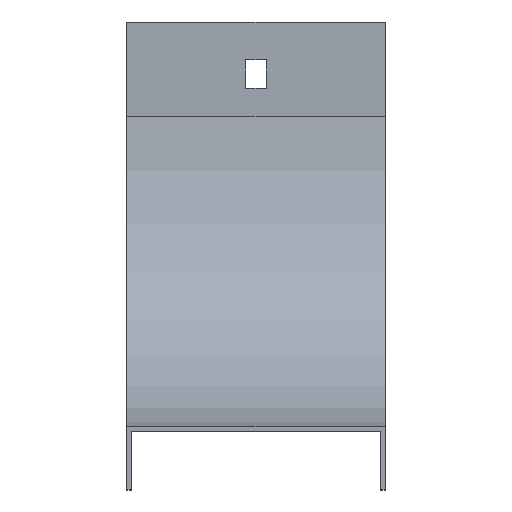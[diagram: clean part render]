
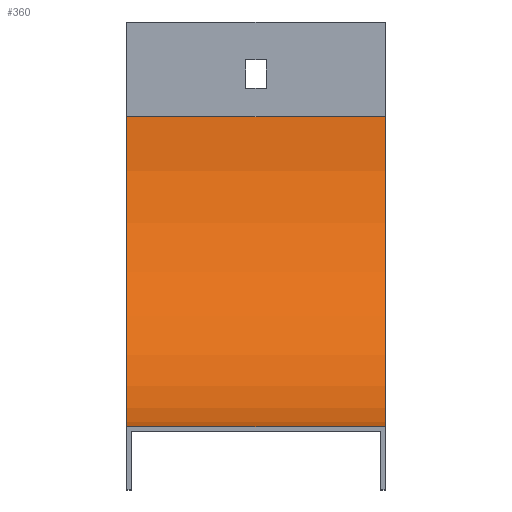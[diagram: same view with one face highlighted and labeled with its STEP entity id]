
A CAD part, top view. The second image highlights one B-rep face of the part: STEP entity #360.
In plain terms, the highlighted cylindrical face has radius 98.5 mm (diameter 197 mm), a partial arc.
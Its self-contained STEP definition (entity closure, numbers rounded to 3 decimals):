
#9 = CARTESIAN_POINT ( 'NONE',  ( -41., 98.5, -30. ) ) ;
#47 = EDGE_CURVE ( 'NONE', #192, #613, #340, .T. ) ;
#59 = CARTESIAN_POINT ( 'NONE',  ( -41., 0., -30. ) ) ;
#109 = CIRCLE ( 'NONE', #515, 98.5 ) ;
#130 = LINE ( 'NONE', #199, #452 ) ;
#138 = DIRECTION ( 'NONE',  ( -1., 0., 0. ) ) ;
#171 = CARTESIAN_POINT ( 'NONE',  ( 41., 98.5, -30. ) ) ;
#192 = VERTEX_POINT ( 'NONE', #531 ) ;
#199 = CARTESIAN_POINT ( 'NONE',  ( 41., 98.5, -128.5 ) ) ;
#234 = EDGE_CURVE ( 'NONE', #414, #192, #130, .T. ) ;
#285 = DIRECTION ( 'NONE',  ( 0., 0., 1. ) ) ;
#290 = FACE_OUTER_BOUND ( 'NONE', #606, .T. ) ;
#314 = ORIENTED_EDGE ( 'NONE', *, *, #789, .F. ) ;
#340 = CIRCLE ( 'NONE', #567, 98.5 ) ;
#347 = CARTESIAN_POINT ( 'NONE',  ( 41., 98.5, -30. ) ) ;
#360 = ADVANCED_FACE ( 'NONE', ( #290 ), #814, .F. ) ;
#363 = CARTESIAN_POINT ( 'NONE',  ( 41., 0., -30. ) ) ;
#413 = DIRECTION ( 'NONE',  ( -1., 0., 0. ) ) ;
#414 = VERTEX_POINT ( 'NONE', #637 ) ;
#431 = LINE ( 'NONE', #363, #697 ) ;
#439 = DIRECTION ( 'NONE',  ( -1., 0., 0. ) ) ;
#443 = DIRECTION ( 'NONE',  ( 0., 0., -1. ) ) ;
#449 = VERTEX_POINT ( 'NONE', #583 ) ;
#452 = VECTOR ( 'NONE', #138, 1000. ) ;
#508 = DIRECTION ( 'NONE',  ( -1., 0., 0. ) ) ;
#511 = EDGE_CURVE ( 'NONE', #414, #449, #109, .T. ) ;
#515 = AXIS2_PLACEMENT_3D ( 'NONE', #171, #439, #443 ) ;
#531 = CARTESIAN_POINT ( 'NONE',  ( -41., 98.5, -128.5 ) ) ;
#565 = DIRECTION ( 'NONE',  ( -1., 0., 0. ) ) ;
#567 = AXIS2_PLACEMENT_3D ( 'NONE', #9, #413, #680 ) ;
#583 = CARTESIAN_POINT ( 'NONE',  ( 41., 0., -30. ) ) ;
#606 = EDGE_LOOP ( 'NONE', ( #649, #314, #714, #665 ) ) ;
#613 = VERTEX_POINT ( 'NONE', #59 ) ;
#637 = CARTESIAN_POINT ( 'NONE',  ( 41., 98.5, -128.5 ) ) ;
#649 = ORIENTED_EDGE ( 'NONE', *, *, #47, .T. ) ;
#665 = ORIENTED_EDGE ( 'NONE', *, *, #234, .T. ) ;
#680 = DIRECTION ( 'NONE',  ( 0., 0., -1. ) ) ;
#695 = AXIS2_PLACEMENT_3D ( 'NONE', #347, #565, #285 ) ;
#697 = VECTOR ( 'NONE', #508, 1000. ) ;
#714 = ORIENTED_EDGE ( 'NONE', *, *, #511, .F. ) ;
#789 = EDGE_CURVE ( 'NONE', #449, #613, #431, .T. ) ;
#814 = CYLINDRICAL_SURFACE ( 'NONE', #695, 98.5 ) ;
